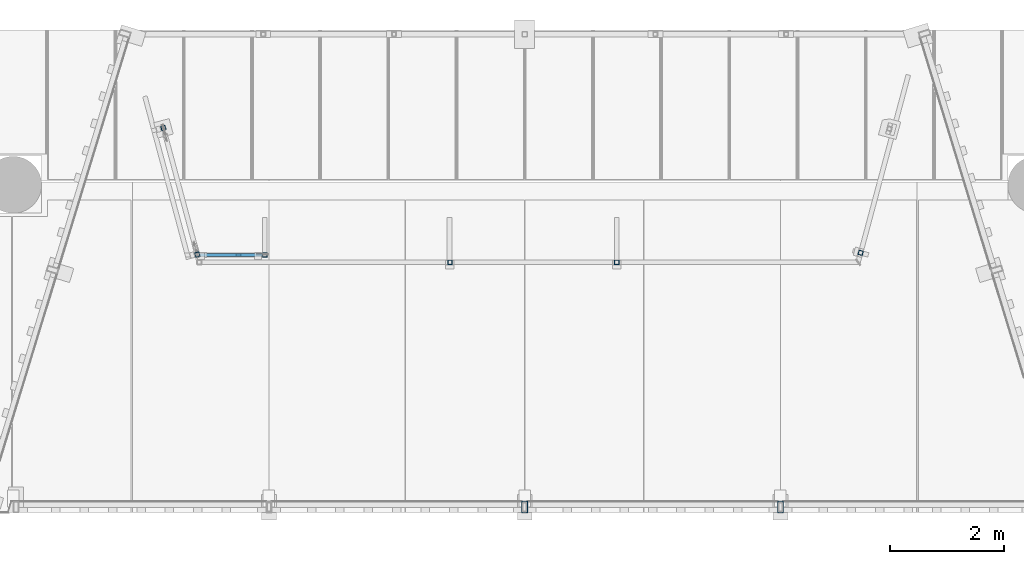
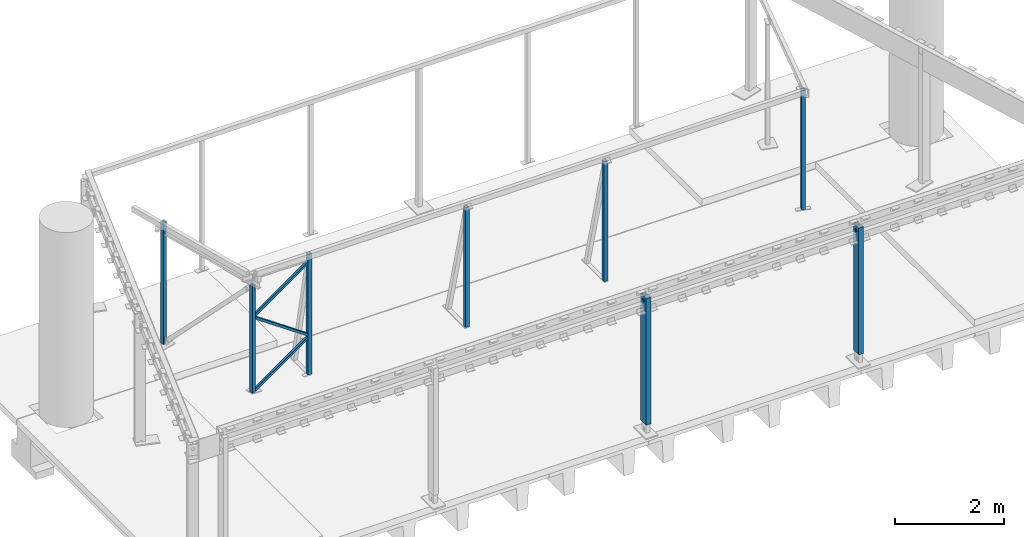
# One storey, part 2 of 19: 11 columns.
"""IFC2X3 building model written with IfcOpenShell, lengths in millimetres."""

from ifc_helpers import new_model, entity, si_unit, converted_unit, derived_unit, direction, frame, origin_with_axes, place, context, subcontext, project, spatial, faceted_brep, material, type_object, element, save


model = new_model("IFC2X3")

# Units and contexts
model_context = context("Model", 3, precision=0.01, world=frame((0.0, 4.29681676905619e-09, 0.0)), true_north=direction((4.01073788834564e-13, 1.0)))
plan_context = context("Plan", 3, precision=0.01, world=frame((0.0, 4.29681676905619e-09, 0.0)), true_north=direction((4.01073788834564e-13, 1.0)))
body_context = subcontext(model_context, "Body", "Model", "MODEL_VIEW")
ifc_project = project(units=[converted_unit("PLANEANGLEUNIT", "DEGREE", entity("IfcPositiveLengthMeasure", 0.0174532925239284), si_unit("PLANEANGLEUNIT", "RADIAN"), dimensions=[0, 0, 0, 0, 0, 0, 0]), si_unit("AREAUNIT", "SQUARE_METRE"), si_unit("LENGTHUNIT", "METRE", prefix="MILLI"), si_unit("MASSUNIT", "GRAM", prefix="KILO"), si_unit("POWERUNIT", "WATT"), si_unit("PRESSUREUNIT", "PASCAL", prefix="KILO"), si_unit("FORCEUNIT", "NEWTON", prefix="KILO"), si_unit("ELECTRICVOLTAGEUNIT", "VOLT"), si_unit("ELECTRICCURRENTUNIT", "AMPERE"), si_unit("THERMODYNAMICTEMPERATUREUNIT", "DEGREE_CELSIUS"), si_unit("TIMEUNIT", "SECOND"), si_unit("VOLUMEUNIT", "CUBIC_METRE"), derived_unit("LINEARVELOCITYUNIT", [(si_unit("LENGTHUNIT", "METRE"), 1), (si_unit("TIMEUNIT", "SECOND"), -1)]), derived_unit("VOLUMETRICFLOWRATEUNIT", [(si_unit("VOLUMEUNIT", "CUBIC_METRE"), 1), (si_unit("TIMEUNIT", "SECOND"), -1)]), derived_unit("THERMALTRANSMITTANCEUNIT", [(si_unit("POWERUNIT", "WATT"), 1), (si_unit("THERMODYNAMICTEMPERATUREUNIT", "KELVIN"), -1), (si_unit("AREAUNIT", "SQUARE_METRE"), -1)]), derived_unit("SOUNDPRESSUREUNIT", [(si_unit("PRESSUREUNIT", "PASCAL"), 1)])], contexts=[model_context, plan_context])

# Site, building, storey
site_placement = place(None, frame((0.0, -4.29681676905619e-09, 0.0), z_axis=(0.0, 0.0, 1.0), x_axis=(1.0, 0.0, 0.0)))
site = spatial("IfcSite", under=ifc_project, at=site_placement, Name="Gardermoen", CompositionType="ELEMENT")
building_placement = place(site_placement, frame((0.0, 4.29681676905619e-09, 0.0), z_axis=(0.0, 0.0, 1.0), x_axis=(1.0, 0.0, 0.0)))
building = spatial("IfcBuilding", under=site, at=building_placement, Name="TI", CompositionType="ELEMENT")
storey_placement = place(building_placement, origin_with_axes())
storey = spatial("IfcBuildingStorey", under=building, at=storey_placement, Name="F", CompositionType="ELEMENT", Elevation=0.0)

# Columns
ifc_material = material(Name="STEEL/S355")
column_type_1 = type_object("IfcColumnType", Name="RHS200*100*8", PredefinedType="NOTDEFINED")
column_1_placement = place(storey_placement, frame((592000.000043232, 569830.0, 210900.000305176), z_axis=(0.0, 1.0, 0.0), x_axis=(0.0, 0.0, 1.0)))
element("IfcColumn", 1, at=column_1_placement, inside=storey, type_object=column_type_1, material=ifc_material, Name="STÅLSØYLE", ObjectType="RHS200*100*8", context=body_context, shape_type="Brep", body=[
    faceted_brep([(2769.33616510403, -50.0, -13.3939201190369), (2769.33616510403, -42.0, -13.3939201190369), (2761.74911880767, -42.0, -24.7487373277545), (2761.74911880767, -50.0, -24.7487373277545), (2750.39430159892, -42.0, -32.3357836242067), (2750.39430159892, -50.0, -32.3357836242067), (2737.00038146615, -42.0, -34.999999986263), (2737.00038146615, -50.0, -34.999999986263), (2723.60646133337, -42.0, -32.3357836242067), (2723.60646133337, -50.0, -32.3357836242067), (2712.25164412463, -42.0, -24.7487373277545), (2712.25164412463, -50.0, -24.7487373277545), (2704.66459782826, -42.0, -13.3939201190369), (2704.66459782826, -50.0, -13.3939201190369), (2702.00038146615, -42.0, 1.37370079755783e-08), (2702.00038146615, -50.0, 1.37370079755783e-08), (2704.66459782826, -42.0, 13.3939201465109), (2704.66459782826, -50.0, 13.3939201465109), (2712.25164412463, -42.0, 24.7487373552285), (2712.25164412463, -50.0, 24.7487373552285), (2723.60646133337, -42.0, 32.3357836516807), (2723.60646133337, -50.0, 32.3357836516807), (2737.00038146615, -42.0, 35.000000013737), (2737.00038146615, -50.0, 35.000000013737), (2750.39430159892, -42.0, 32.3357836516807), (2750.39430159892, -50.0, 32.3357836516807), (2761.74911880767, -42.0, 24.7487373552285), (2761.74911880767, -50.0, 24.7487373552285), (2769.33616510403, -42.0, 13.3939201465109), (2769.33616510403, -50.0, 13.3939201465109), (2772.00038146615, -42.0, 1.37370079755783e-08), (2772.00038146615, -50.0, 1.37370079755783e-08), (2769.33616510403, 42.0, -13.3939201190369), (2769.33616510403, 50.0, -13.3939201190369), (2761.74911880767, 50.0, -24.7487373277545), (2761.74911880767, 42.0, -24.7487373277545), (2750.39430159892, 50.0, -32.3357836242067), (2750.39430159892, 42.0, -32.3357836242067), (2737.00038146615, 50.0, -34.999999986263), (2737.00038146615, 42.0, -34.999999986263), (2723.60646133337, 50.0, -32.3357836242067), (2723.60646133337, 42.0, -32.3357836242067), (2712.25164412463, 50.0, -24.7487373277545), (2712.25164412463, 42.0, -24.7487373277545), (2704.66459782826, 50.0, -13.3939201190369), (2704.66459782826, 42.0, -13.3939201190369), (2702.00038146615, 50.0, 1.37370079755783e-08), (2702.00038146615, 42.0, 1.37370079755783e-08), (2704.66459782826, 50.0, 13.3939201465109), (2704.66459782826, 42.0, 13.3939201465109), (2712.25164412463, 50.0, 24.7487373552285), (2712.25164412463, 42.0, 24.7487373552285), (2723.60646133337, 50.0, 32.3357836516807), (2723.60646133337, 42.0, 32.3357836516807), (2737.00038146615, 50.0, 35.000000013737), (2737.00038146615, 42.0, 35.000000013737), (2750.39430159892, 50.0, 32.3357836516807), (2750.39430159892, 42.0, 32.3357836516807), (2761.74911880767, 50.0, 24.7487373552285), (2761.74911880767, 42.0, 24.7487373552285), (2769.33616510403, 50.0, 13.3939201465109), (2769.33616510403, 42.0, 13.3939201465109), (2772.00038146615, 50.0, 1.37370079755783e-08), (2772.00038146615, 42.0, 1.37370079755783e-08), (0.0, -50.0, -100.0), (0.0, 50.0, -100.0), (2836.99931335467, 50.0, -100.0), (2836.99931335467, -50.0, -100.0), (-1.39791518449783e-06, -49.9999999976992, 99.999992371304), (2836.99931335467, -50.0, 100.0), (-1.39698386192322e-06, 50.0000000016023, 99.999992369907), (2836.99931335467, 50.0, 100.0), (0.0, 42.0, 92.0), (0.0, -42.0, 92.0), (0.0, -42.0, -92.0), (0.0, 42.0, -92.0), (2836.99931335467, 42.0, -92.0), (2836.99931335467, 42.0, 92.0), (2836.99931335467, -42.0, 92.0), (2836.99931335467, -42.0, -92.0)], [[[0, 1, 2, 3]], [[3, 2, 4, 5]], [[5, 4, 6, 7]], [[7, 6, 8, 9]], [[9, 8, 10, 11]], [[11, 10, 12, 13]], [[13, 12, 14, 15]], [[15, 14, 16, 17]], [[17, 16, 18, 19]], [[19, 18, 20, 21]], [[21, 20, 22, 23]], [[23, 22, 24, 25]], [[25, 24, 26, 27]], [[27, 26, 28, 29]], [[29, 28, 30, 31]], [[31, 30, 1, 0]], [[32, 33, 34, 35]], [[35, 34, 36, 37]], [[37, 36, 38, 39]], [[39, 38, 40, 41]], [[41, 40, 42, 43]], [[43, 42, 44, 45]], [[45, 44, 46, 47]], [[47, 46, 48, 49]], [[49, 48, 50, 51]], [[51, 50, 52, 53]], [[53, 52, 54, 55]], [[55, 54, 56, 57]], [[57, 56, 58, 59]], [[59, 58, 60, 61]], [[61, 60, 62, 63]], [[63, 62, 33, 32]], [[64, 65, 66, 67]], [[68, 64, 67, 69], [3, 5, 7, 9, 11, 13, 15, 17, 19, 21, 23, 25, 27, 29, 31, 0]], [[70, 68, 69, 71]], [[64, 68, 70, 65], [72, 73, 74, 75]], [[72, 75, 76, 77], [35, 37, 39, 41, 43, 45, 47, 49, 51, 53, 55, 57, 59, 61, 63, 32]], [[73, 72, 77, 78]], [[74, 73, 78, 79], [26, 24, 22, 20, 18, 16, 14, 12, 10, 8, 6, 4, 2, 1, 30, 28]], [[75, 74, 79, 76]], [[69, 67, 66, 71], [78, 77, 76, 79]], [[65, 70, 71, 66], [58, 56, 54, 52, 50, 48, 46, 44, 42, 40, 38, 36, 34, 33, 62, 60]]]),
])
column_2_placement = place(storey_placement, frame((596500.000043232, 569830.0, 210900.000305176), z_axis=(0.0, 1.0, 0.0), x_axis=(0.0, 0.0, 1.0)))
element("IfcColumn", 2, at=column_2_placement, inside=storey, type_object=column_type_1, material=ifc_material, Name="STÅLSØYLE", ObjectType="RHS200*100*8", context=body_context, shape_type="Brep", body=[
    faceted_brep([(2769.33616510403, -50.0, -13.3939201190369), (2769.33616510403, -42.0, -13.3939201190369), (2761.74911880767, -42.0, -24.7487373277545), (2761.74911880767, -50.0, -24.7487373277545), (2750.39430159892, -42.0, -32.3357836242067), (2750.39430159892, -50.0, -32.3357836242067), (2737.00038146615, -42.0, -34.999999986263), (2737.00038146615, -50.0, -34.999999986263), (2723.60646133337, -42.0, -32.3357836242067), (2723.60646133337, -50.0, -32.3357836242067), (2712.25164412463, -42.0, -24.7487373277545), (2712.25164412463, -50.0, -24.7487373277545), (2704.66459782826, -42.0, -13.3939201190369), (2704.66459782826, -50.0, -13.3939201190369), (2702.00038146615, -42.0, 1.37370079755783e-08), (2702.00038146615, -50.0, 1.37370079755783e-08), (2704.66459782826, -42.0, 13.3939201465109), (2704.66459782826, -50.0, 13.3939201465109), (2712.25164412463, -42.0, 24.7487373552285), (2712.25164412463, -50.0, 24.7487373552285), (2723.60646133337, -42.0, 32.3357836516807), (2723.60646133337, -50.0, 32.3357836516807), (2737.00038146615, -42.0, 35.000000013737), (2737.00038146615, -50.0, 35.000000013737), (2750.39430159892, -42.0, 32.3357836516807), (2750.39430159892, -50.0, 32.3357836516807), (2761.74911880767, -42.0, 24.7487373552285), (2761.74911880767, -50.0, 24.7487373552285), (2769.33616510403, -42.0, 13.3939201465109), (2769.33616510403, -50.0, 13.3939201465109), (2772.00038146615, -42.0, 1.37370079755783e-08), (2772.00038146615, -50.0, 1.37370079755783e-08), (2769.33616510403, 42.0, -13.3939201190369), (2769.33616510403, 50.0, -13.3939201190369), (2761.74911880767, 50.0, -24.7487373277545), (2761.74911880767, 42.0, -24.7487373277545), (2750.39430159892, 50.0, -32.3357836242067), (2750.39430159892, 42.0, -32.3357836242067), (2737.00038146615, 50.0, -34.999999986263), (2737.00038146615, 42.0, -34.999999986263), (2723.60646133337, 50.0, -32.3357836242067), (2723.60646133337, 42.0, -32.3357836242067), (2712.25164412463, 50.0, -24.7487373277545), (2712.25164412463, 42.0, -24.7487373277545), (2704.66459782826, 50.0, -13.3939201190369), (2704.66459782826, 42.0, -13.3939201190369), (2702.00038146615, 50.0, 1.37370079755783e-08), (2702.00038146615, 42.0, 1.37370079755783e-08), (2704.66459782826, 50.0, 13.3939201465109), (2704.66459782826, 42.0, 13.3939201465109), (2712.25164412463, 50.0, 24.7487373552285), (2712.25164412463, 42.0, 24.7487373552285), (2723.60646133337, 50.0, 32.3357836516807), (2723.60646133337, 42.0, 32.3357836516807), (2737.00038146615, 50.0, 35.000000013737), (2737.00038146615, 42.0, 35.000000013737), (2750.39430159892, 50.0, 32.3357836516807), (2750.39430159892, 42.0, 32.3357836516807), (2761.74911880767, 50.0, 24.7487373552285), (2761.74911880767, 42.0, 24.7487373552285), (2769.33616510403, 50.0, 13.3939201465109), (2769.33616510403, 42.0, 13.3939201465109), (2772.00038146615, 50.0, 1.37370079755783e-08), (2772.00038146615, 42.0, 1.37370079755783e-08), (0.0, -50.0, -100.0), (0.0, 50.0, -100.0), (2836.99931335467, 50.0, -100.0), (2836.99931335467, -50.0, -100.0), (-1.39791518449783e-06, -49.9999999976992, 99.999992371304), (2836.99931335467, -50.0, 100.0), (-1.39698386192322e-06, 50.0000000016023, 99.999992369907), (2836.99931335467, 50.0, 100.0), (0.0, 42.0, 92.0), (0.0, -42.0, 92.0), (0.0, -42.0, -92.0), (0.0, 42.0, -92.0), (2836.99931335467, 42.0, -92.0), (2836.99931335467, 42.0, 92.0), (2836.99931335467, -42.0, 92.0), (2836.99931335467, -42.0, -92.0)], [[[0, 1, 2, 3]], [[3, 2, 4, 5]], [[5, 4, 6, 7]], [[7, 6, 8, 9]], [[9, 8, 10, 11]], [[11, 10, 12, 13]], [[13, 12, 14, 15]], [[15, 14, 16, 17]], [[17, 16, 18, 19]], [[19, 18, 20, 21]], [[21, 20, 22, 23]], [[23, 22, 24, 25]], [[25, 24, 26, 27]], [[27, 26, 28, 29]], [[29, 28, 30, 31]], [[31, 30, 1, 0]], [[32, 33, 34, 35]], [[35, 34, 36, 37]], [[37, 36, 38, 39]], [[39, 38, 40, 41]], [[41, 40, 42, 43]], [[43, 42, 44, 45]], [[45, 44, 46, 47]], [[47, 46, 48, 49]], [[49, 48, 50, 51]], [[51, 50, 52, 53]], [[53, 52, 54, 55]], [[55, 54, 56, 57]], [[57, 56, 58, 59]], [[59, 58, 60, 61]], [[61, 60, 62, 63]], [[63, 62, 33, 32]], [[64, 65, 66, 67]], [[68, 64, 67, 69], [3, 5, 7, 9, 11, 13, 15, 17, 19, 21, 23, 25, 27, 29, 31, 0]], [[70, 68, 69, 71]], [[64, 68, 70, 65], [72, 73, 74, 75]], [[72, 75, 76, 77], [35, 37, 39, 41, 43, 45, 47, 49, 51, 53, 55, 57, 59, 61, 63, 32]], [[73, 72, 77, 78]], [[74, 73, 78, 79], [26, 24, 22, 20, 18, 16, 14, 12, 10, 8, 6, 4, 2, 1, 30, 28]], [[75, 74, 79, 76]], [[69, 67, 66, 71], [78, 77, 76, 79]], [[65, 70, 71, 66], [58, 56, 54, 52, 50, 48, 46, 44, 42, 40, 38, 36, 34, 33, 62, 60]]]),
])
column_type_2 = type_object("IfcColumnType", Name="RHS50*5", PredefinedType="NOTDEFINED")
column_3_placement = place(storey_placement, frame((586263.429907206, 574264.259149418, 212565.0), z_axis=(6.12981516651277e-06, 0.999999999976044, 3.21512774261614e-06), x_axis=(0.822581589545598, -3.21400002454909e-06, -0.568647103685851)))
element("IfcColumn", 3, at=column_3_placement, inside=storey, type_object=column_type_2, material=ifc_material, Name="STÅLSØYLE", ObjectType="RHS50*5", context=body_context, shape_type="Brep", body=[
    faceted_brep([(34.7092999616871, 24.9999999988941, -21.3410034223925), (34.7093214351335, 24.9999999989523, -24.9999999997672), (0.0, -25.0, -25.0), (-1.39698386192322e-09, -24.9999999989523, -21.3726612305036), (5.82076609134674e-10, -24.9999999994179, 25.0000000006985), (-5.82076609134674e-11, -23.4800044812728, 25.0000000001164), (-1.74622982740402e-10, -24.9999999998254, 21.7743184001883), (1353.18698745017, -20.0000000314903, 20.0000000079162), (1353.18709553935, -20.0000000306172, -19.9999999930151), (9.68422693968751, -19.9999999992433, -20.0000000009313), (16.5700395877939, -19.9999999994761, -18.4822729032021), (4.03445552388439, -19.9999999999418, 20.0000000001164), (1380.83883543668, 19.9999999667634, 20.000000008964), (31.6862320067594, 19.999999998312, 20.0000000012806), (1380.83894352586, 19.9999999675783, -19.9999999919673), (44.2218670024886, 19.9999999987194, -18.4824292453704), (37.3367636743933, 19.9999999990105, -19.9999999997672), (1349.73049294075, -25.0000000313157, 25.0000000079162), (1349.7306280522, -25.000000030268, -24.9999999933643), (1384.29543803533, 24.9999999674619, -24.9999999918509), (1384.29530292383, 24.9999999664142, 25.0000000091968), (33.5139561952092, 24.9999999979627, 25.000000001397), (47.6783454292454, 24.9999999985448, -18.4824487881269), (13.1135611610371, -24.9999999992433, -18.4822533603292)], [[[0, 1, 2, 3]], [[4, 5, 6]], [[7, 8, 9, 10, 11]], [[12, 7, 11, 13]], [[14, 12, 13, 15, 16]], [[8, 14, 16, 9]], [[17, 18, 19, 20], [7, 12, 14, 8]], [[4, 17, 20, 21, 5]], [[22, 15, 13, 11, 10, 23, 6, 5, 21]], [[23, 10, 9, 16, 15, 22, 0, 3]], [[18, 17, 4, 6, 23, 3, 2]], [[19, 18, 2, 1]], [[22, 21, 20, 19, 1, 0]]]),
])
column_4_placement = place(storey_placement, frame((586263.429907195, 574264.259149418, 212605.0), z_axis=(1.66685090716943e-06, 0.999999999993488, 3.20089569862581e-06), x_axis=(0.81927687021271, -3.2009999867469e-06, 0.573398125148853)))
element("IfcColumn", 4, at=column_4_placement, inside=storey, type_object=column_type_2, material=ifc_material, Name="STÅLSØYLE", ObjectType="RHS50*5", context=body_context, shape_type="Brep", body=[
    faceted_brep([(34.9941667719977, -24.9999999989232, -21.3408080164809), (-2.3283064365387e-10, 24.999999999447, -21.3410047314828), (0.0, 25.0, -25.0), (34.9941683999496, -24.9999999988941, -24.9999999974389), (0.0, 25.0, 25.0), (-6.98491930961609e-10, 24.9999999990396, 21.3312129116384), (-6.98491930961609e-10, 23.2855648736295, 24.9999999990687), (1390.02368463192, -24.9999999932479, 25.0000000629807), (1355.0295241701, 25.0000000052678, 25.0000000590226), (33.7943177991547, -24.9999999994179, 25.0000000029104), (1390.02354791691, -24.9999999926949, -24.9999999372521), (1355.0293874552, 25.0000000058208, -24.9999999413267), (1386.52425491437, -19.9999999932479, 20.000000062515), (1358.52892654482, 20.0000000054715, 20.0000000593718), (1358.52881717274, 20.0000000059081, -19.999999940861), (1386.52414554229, -19.9999999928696, -19.9999999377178), (31.9301858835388, -19.9999999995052, 20.0000000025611), (3.93480640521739, 19.9999999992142, 19.9999999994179), (16.5207966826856, 19.9999999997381, -18.4824292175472), (9.60791227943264, 19.9999999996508, -20.0000000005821), (37.6025287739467, -19.9999999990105, -19.9999999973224), (44.5161250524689, -19.9999999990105, -18.4822729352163), (13.0213806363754, 24.9999999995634, -18.4824487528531), (48.0155410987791, -24.9999999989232, -18.4822533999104)], [[[0, 1, 2, 3]], [[4, 5, 6]], [[7, 8, 4, 6, 9]], [[7, 10, 11, 8], [12, 13, 14, 15]], [[13, 12, 16, 17]], [[14, 13, 17, 18, 19]], [[15, 14, 19, 20]], [[12, 15, 20, 21, 16]], [[9, 6, 5, 22, 18, 17, 16, 21, 23]], [[10, 7, 9, 23, 0, 3]], [[11, 10, 3, 2]], [[22, 5, 4, 8, 11, 2, 1]], [[23, 21, 20, 19, 18, 22, 1, 0]]]),
])
column_5_placement = place(storey_placement, frame((586263.429907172, 574264.259149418, 210925.0), z_axis=(1.66685090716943e-06, 0.999999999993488, 3.20089569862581e-06), x_axis=(0.81927687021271, -3.2009999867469e-06, 0.573398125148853)))
element("IfcColumn", 5, at=column_5_placement, inside=storey, type_object=column_type_2, material=ifc_material, Name="STÅLSØYLE", ObjectType="RHS50*5", context=body_context, shape_type="Brep", body=[
    faceted_brep([(16.5207966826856, 19.9999999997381, -18.4824292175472), (11.1363180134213, 19.9999999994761, -2.01905889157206), (14.7504888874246, 22.529433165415, -18.4824391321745), (11.1364165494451, 19.9999999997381, -19.664450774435), (34.9941683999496, -24.9999999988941, -24.9999999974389), (1390.0241204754, -24.9999999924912, -24.999999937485), (1390.02425723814, -24.9999999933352, 25.0000000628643), (33.7943177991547, -24.9999999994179, 25.0000000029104), (48.0155410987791, -24.9999999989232, -18.4822533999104), (34.9941667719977, -24.9999999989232, -21.3408080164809), (1386.52483010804, -19.9999999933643, 20.0000000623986), (1386.5247206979, -19.9999999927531, -19.9999999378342), (37.6025287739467, -19.9999999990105, -19.9999999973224), (44.5161250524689, -19.9999999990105, -18.4822729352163), (31.9301858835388, -19.9999999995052, 20.0000000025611), (1355.02998593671, 25.000000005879, -24.9999999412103), (1355.03012269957, 25.0000000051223, 25.0000000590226), (1358.52952247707, 20.0000000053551, 20.0000000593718), (1358.52941306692, 20.0000000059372, -19.9999999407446), (18.2802162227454, 24.9999999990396, 24.9999999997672), (5.20488143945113, 15.8487927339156, 24.9999999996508), (6.30252081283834, 16.6169925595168, 19.9999999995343), (11.1361950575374, 19.9999999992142, 19.9999999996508), (11.1364184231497, 19.9999999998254, -20.0000000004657), (10.1104544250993, 19.2819450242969, -20.0000000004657), (6.01035354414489, 16.4123480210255, -21.3409712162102), (6.01036109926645, 16.4123390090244, -25.0000000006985), (18.2804954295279, 24.999999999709, -25.0000000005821)], [[[0, 1, 2]], [[0, 2, 3]], [[4, 5, 6, 7, 8, 9]], [[10, 11, 12, 13, 14]], [[6, 5, 15, 16], [10, 17, 18, 11]], [[7, 6, 16, 19, 20]], [[14, 13, 8, 7, 20, 21]], [[17, 10, 14, 21, 22]], [[0, 3, 23, 18, 17, 22, 1]], [[12, 11, 18, 23, 24]], [[9, 8, 13, 12, 24, 25]], [[4, 9, 25, 26]], [[15, 5, 4, 26, 27]], [[16, 15, 27, 19]], [[26, 25, 24, 23, 3, 2, 1, 22, 21, 20, 19, 27]]]),
])
column_type_3 = type_object("IfcColumnType", Name="RHS80*6.3", PredefinedType="NOTDEFINED")
for number, where, z_axis, x_axis in (
    (6, (593620.229067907, 574136.759051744, 210895.0), (0.0, 1.0, 0.0), (0.0, 0.0, 1.0)),
    (7, (597911.361717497, 574303.115780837, 210895.0), (0.258819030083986, 0.965925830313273, 0.0), (0.0, 0.0, 1.0)),
    (8, (590685.229067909, 574136.759051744, 210895.0), (0.0, 1.0, 0.0), (0.0, 0.0, 1.0)),
):
    element("IfcColumn", number, at=place(storey_placement, frame(where, z_axis=z_axis, x_axis=x_axis)), inside=storey, type_object=column_type_3, material=ifc_material, Name="STÅLSØYLE", ObjectType="RHS80*6.3", context=body_context, shape_type="Brep", body=[
        faceted_brep([(0.0, 33.6999998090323, -33.6999998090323), (0.0, -33.6999998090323, -33.6999998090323), (2673.0, -33.6999998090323, -33.6999998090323), (2673.0, 33.6999998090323, -33.6999998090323), (0.0, -33.6999998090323, 33.6999998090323), (2673.0, -33.6999998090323, 33.6999998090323), (0.0, 33.6999998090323, 33.6999998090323), (2673.0, 33.6999998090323, 33.6999998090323), (0.0, 40.0, -40.0), (0.0, 40.0, 40.0), (2673.0, 40.0, 40.0), (2673.0, 40.0, -40.0), (0.0, -40.0, 40.0), (2673.0, -40.0, 40.0), (0.0, -40.0, -40.0), (2673.0, -40.0, -40.0)], [[[0, 1, 2, 3]], [[1, 4, 5, 2]], [[4, 6, 7, 5]], [[6, 0, 3, 7]], [[8, 9, 10, 11]], [[9, 12, 13, 10]], [[12, 14, 15, 13]], [[14, 8, 11, 15]], [[13, 15, 11, 10], [5, 7, 3, 2]], [[14, 12, 9, 8], [6, 4, 1, 0]]]),
    ])
column_6_placement = place(storey_placement, frame((587427.909907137, 574264.259051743, 210895.0), z_axis=(0.0, 1.0, 0.0), x_axis=(0.0, 0.0, 1.0)))
element("IfcColumn", 9, at=column_6_placement, inside=storey, type_object=column_type_3, material=ifc_material, Name="STÅLSØYLE", ObjectType="RHS80*6.3", context=body_context, shape_type="Brep", body=[
    faceted_brep([(2666.49984606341, 33.6999998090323, 2.34816917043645), (2666.49984606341, 40.0, 2.34814306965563), (2559.49984606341, 40.0, 2.34814306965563), (2559.49984606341, 33.6999998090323, 2.34816917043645), (2559.49984606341, 40.0, 12.348143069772), (2559.49984606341, 33.6999998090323, 12.3481691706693), (2666.49984606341, 40.0, 12.348143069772), (2666.49984606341, 33.6999998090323, 12.3481691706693), (0.0, 40.0, 40.0), (0.0, -40.0, 40.0), (2700.0, -40.0, 40.0), (2700.0, 40.0, 40.0), (0.0, 33.6999998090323, 33.6999998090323), (0.0, 33.6999998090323, -33.6999998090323), (2700.0, 33.6999998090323, -33.6999998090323), (2700.0, 33.6999998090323, 33.6999998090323), (0.0, -33.6999998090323, 33.6999998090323), (2700.0, -33.6999998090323, 33.6999998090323), (0.0, -40.0, -40.0), (0.0, 40.0, -40.0), (0.0, -33.6999998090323, -33.6999998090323), (2700.0, 40.0, -40.0), (2700.0, -40.0, -40.0), (2561.49984606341, -40.0, 2.34847450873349), (2561.49984606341, -40.0, 12.3484745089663), (2668.49984606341, -40.0, 12.3484745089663), (2668.49984606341, -40.0, 2.34847450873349), (2561.49984606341, -33.6999998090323, 2.34844840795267), (2561.49984606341, -33.6999998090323, 12.3484484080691), (2668.49984606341, -33.6999998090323, 2.34844840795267), (2668.49984606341, -33.6999998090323, 12.3484484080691), (2700.0, -33.6999998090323, -33.6999998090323)], [[[0, 1, 2, 3]], [[3, 2, 4, 5]], [[5, 4, 6, 7]], [[7, 6, 1, 0]], [[8, 9, 10, 11]], [[12, 13, 14, 15], [3, 5, 7, 0]], [[16, 12, 15, 17]], [[18, 9, 8, 19], [12, 16, 20, 13]], [[18, 19, 21, 22]], [[9, 18, 22, 10], [23, 24, 25, 26]], [[23, 27, 28, 24]], [[26, 29, 27, 23]], [[25, 30, 29, 26]], [[24, 28, 30, 25]], [[20, 16, 17, 31], [27, 29, 30, 28]], [[13, 20, 31, 14]], [[10, 22, 21, 11], [17, 15, 14, 31]], [[19, 8, 11, 21], [2, 1, 6, 4]]]),
])
column_7_placement = place(storey_placement, frame((586239.443150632, 574274.060971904, 210895.0), z_axis=(-0.258818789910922, 0.965925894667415, 0.0), x_axis=(0.0, 0.0, 1.0)))
element("IfcColumn", 10, at=column_7_placement, inside=storey, type_object=column_type_3, material=ifc_material, Name="STÅLSØYLE", ObjectType="RHS80*6.3", context=body_context, shape_type="Brep", body=[
    faceted_brep([(2394.99961853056, 15.9325644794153, 40.0000000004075), (2260.93433037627, 15.9325809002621, 40.000000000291), (2260.93430733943, 15.9325515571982, 33.6999998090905), (2394.99961853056, 15.9325351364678, 33.6999998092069), (2260.93432890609, 3.93258090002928, 40.0000000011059), (2260.93430586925, 3.93255155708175, 33.699999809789), (2394.99961853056, 3.93256447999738, 40.0000000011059), (2394.99961853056, 3.93253513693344, 33.6999998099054), (2394.99961853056, 15.9322212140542, -33.6999998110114), (2260.93406088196, 15.9322376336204, -33.6999998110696), (2260.93403784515, 15.9322082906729, -40.0000000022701), (2394.99961853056, 15.932191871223, -40.0000000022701), (2260.93405941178, 3.93223763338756, -33.6999998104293), (2260.93403637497, 3.93220829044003, -40.0000000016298), (2394.99961853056, 3.93222121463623, -33.6999998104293), (2394.99961853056, 3.9321918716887, -40.000000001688), (0.0, 33.6999998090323, 33.6999998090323), (0.0, 33.6999998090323, -33.6999998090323), (2394.99961853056, 33.699999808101, -33.6999998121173), (2394.99961853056, 33.6999998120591, 33.6999998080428), (2394.99961853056, -33.6999998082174, 33.6999998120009), (0.0, -33.6999998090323, 33.6999998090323), (0.0, -33.6999998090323, -33.6999998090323), (2394.99961853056, -33.6999998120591, -33.6999998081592), (0.0, -40.0, -40.0), (0.0, -40.0, 40.0), (0.0, 40.0, 40.0), (0.0, 40.0, -40.0), (2394.99964293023, 39.9999998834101, 40.0), (2394.99964293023, 39.9999998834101, -40.0), (2394.99964293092, -40.0000001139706, -40.0), (2394.99964293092, -40.0000001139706, 40.0)], [[[0, 1, 2, 3]], [[4, 5, 2, 1]], [[6, 7, 5, 4]], [[8, 9, 10, 11]], [[12, 13, 10, 9]], [[14, 15, 13, 12]], [[16, 17, 18, 19]], [[20, 21, 16, 19, 3, 2, 5, 7]], [[22, 21, 20, 23]], [[9, 8, 18, 17, 22, 23, 14, 12]], [[24, 25, 26, 27], [16, 21, 22, 17]], [[27, 26, 28, 29]], [[19, 18, 8, 11, 29, 28, 0, 3]], [[30, 24, 27, 29, 11, 10, 13, 15]], [[25, 24, 30, 31]], [[1, 0, 28, 26, 25, 31, 6, 4]], [[31, 30, 15, 14, 23, 20, 7, 6]]]),
])
column_8_placement = place(storey_placement, frame((585642.420886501, 576502.289161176, 210845.0), z_axis=(-0.258825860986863, 0.965923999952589, 0.0), x_axis=(0.0, 0.0, 1.0)))
element("IfcColumn", 11, at=column_8_placement, inside=storey, type_object=column_type_3, material=ifc_material, Name="STÅLSØYLE", ObjectType="RHS80*6.3", context=body_context, shape_type="Brep", body=[
    faceted_brep([(2469.49973297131, 0.348285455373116, 39.999999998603), (2469.49973297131, 0.348229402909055, 33.6999998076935), (2469.49973297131, 10.3482294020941, 33.6999998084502), (2469.49973297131, 10.3482854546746, 39.9999999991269), (2576.49973297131, 10.3482294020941, 33.6999998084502), (2576.49973297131, 10.3482854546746, 39.9999999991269), (2576.49973297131, 0.348229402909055, 33.6999998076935), (2576.49973297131, 0.348285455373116, 39.999999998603), (0.0, -33.6999998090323, -33.6999998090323), (0.0, -33.6999998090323, 33.6999998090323), (2728.0, -33.6999998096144, 33.6999998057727), (2728.0, -33.6999998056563, -33.6999998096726), (0.0, 40.0, -40.0), (0.0, 40.0, 40.0), (2728.0, 39.9999999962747, 40.0000000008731), (2728.0, 40.0000000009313, -39.9999999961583), (0.0, -40.0, 40.0), (0.0, -40.0, -40.0), (2728.0, -39.9999999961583, -40.0000000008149), (2728.0, -40.0000000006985, 39.9999999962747), (0.0, -4.0049403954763, -33.6999998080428), (0.0, -4.00501537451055, -39.9999999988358), (174.301676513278, -4.00501558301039, -39.9999999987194), (174.301737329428, -4.00494060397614, -33.6999998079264), (174.301737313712, -16.0049406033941, -33.6999998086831), (174.301676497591, -16.0050155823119, -39.9999999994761), (0.0, -16.0050153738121, -39.9999999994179), (0.0, -16.0049403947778, -33.6999998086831), (2471.49973297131, 10.3475736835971, -39.9999999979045), (2471.49973297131, 0.347573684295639, -39.9999999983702), (2578.49973297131, 0.347573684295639, -39.9999999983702), (2578.49973297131, 10.3475736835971, -39.9999999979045), (2578.49973297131, 10.3476297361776, -33.6999998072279), (2578.49973297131, 0.347629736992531, -33.6999998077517), (2471.49973297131, 10.3476297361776, -33.6999998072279), (2471.49973297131, 0.347629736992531, -33.6999998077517), (2728.0, 33.6999998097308, -33.6999998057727), (0.0, 33.6999998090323, -33.6999998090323), (2728.0, 33.6999998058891, 33.6999998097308), (0.0, 33.6999998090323, 33.6999998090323), (0.0, -4.00413823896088, 33.6999998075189), (0.0, -4.00406325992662, 39.999999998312), (174.302387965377, -4.00413844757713, 33.6999998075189), (174.302448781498, -4.00406346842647, 39.9999999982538), (174.302448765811, -16.0040634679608, 39.9999999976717), (0.0, -16.004063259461, 39.9999999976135), (0.0, -16.0041382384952, 33.6999998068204), (174.30238794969, -16.0041384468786, 33.6999998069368)], [[[0, 1, 2, 3]], [[3, 2, 4, 5]], [[5, 4, 6, 7]], [[7, 6, 1, 0]], [[8, 9, 10, 11]], [[12, 13, 14, 15]], [[16, 17, 18, 19]], [[20, 21, 22, 23]], [[24, 25, 26, 27]], [[23, 22, 25, 24]], [[21, 12, 15, 18, 17, 26, 25, 22], [28, 29, 30, 31]], [[32, 31, 30, 33]], [[34, 28, 31, 32]], [[35, 29, 28, 34]], [[33, 30, 29, 35]], [[8, 11, 36, 37, 20, 23, 24, 27], [34, 32, 33, 35]], [[19, 18, 15, 14], [10, 38, 36, 11]], [[39, 37, 36, 38]], [[13, 12, 21, 20, 37, 39, 40, 41]], [[41, 40, 42, 43]], [[16, 19, 14, 13, 41, 43, 44, 45], [3, 5, 7, 0]], [[9, 8, 27, 26, 17, 16, 45, 46]], [[44, 47, 46, 45]], [[43, 42, 47, 44]], [[40, 39, 38, 10, 9, 46, 47, 42], [2, 1, 6, 4]]]),
])

save(model, "model.ifc")
